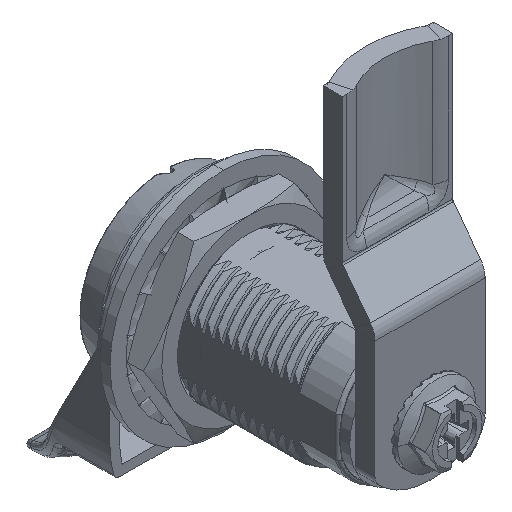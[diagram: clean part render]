
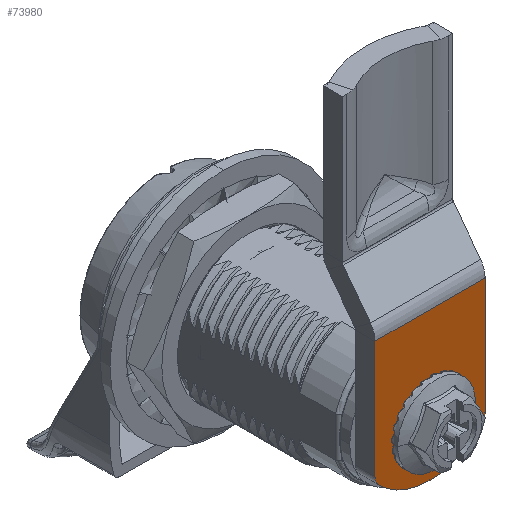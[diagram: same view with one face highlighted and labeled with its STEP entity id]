
A CAD part, isometric view. The second image highlights one B-rep face of the part: STEP entity #73980.
In plain terms, the highlighted planar face has unit normal (0, -1, 0) as drawn and (0, 1, 0) by its records, which use the part's own axes.
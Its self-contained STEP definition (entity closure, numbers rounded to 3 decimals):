
#72764=DIRECTION('',(0.,0.,-1.));
#72765=VECTOR('',#72764,17.);
#72766=CARTESIAN_POINT('',(14.834,3.,8.5));
#72767=LINE('',#72766,#72765);
#72843=CARTESIAN_POINT('',(-3.225,3.,6.5));
#72844=DIRECTION('',(0.,1.,0.));
#72845=DIRECTION('',(-0.692,0.,0.722));
#72846=AXIS2_PLACEMENT_3D('',#72843,#72844,#72845);
#72848=CARTESIAN_POINT('',(3.,3.,0.));
#72849=DIRECTION('',(0.,-1.,0.));
#72850=DIRECTION('',(-0.692,0.,0.722));
#72851=AXIS2_PLACEMENT_3D('',#72848,#72849,#72850);
#72853=CARTESIAN_POINT('',(3.,3.,0.));
#72854=DIRECTION('',(0.,-1.,0.));
#72855=DIRECTION('',(-1.,0.,0.));
#72856=AXIS2_PLACEMENT_3D('',#72853,#72854,#72855);
#72858=CARTESIAN_POINT('',(-3.225,3.,-6.5));
#72859=DIRECTION('',(0.,1.,0.));
#72860=DIRECTION('',(0.,0.,-1.));
#72861=AXIS2_PLACEMENT_3D('',#72858,#72859,#72860);
#72863=DIRECTION('',(1.,0.,0.));
#72864=VECTOR('',#72863,18.059);
#72865=CARTESIAN_POINT('',(-3.225,3.,-8.5));
#72866=LINE('',#72865,#72864);
#72867=DIRECTION('',(1.,0.,0.));
#72868=VECTOR('',#72867,18.059);
#72869=CARTESIAN_POINT('',(-3.225,3.,8.5));
#72870=LINE('',#72869,#72868);
#72871=DIRECTION('',(1.,0.,0.));
#72872=VECTOR('',#72871,4.);
#72873=CARTESIAN_POINT('',(-4.,3.,-4.));
#72874=LINE('',#72873,#72872);
#72875=DIRECTION('',(0.,0.,-1.));
#72876=VECTOR('',#72875,8.);
#72877=CARTESIAN_POINT('',(-4.,3.,4.));
#72878=LINE('',#72877,#72876);
#72879=DIRECTION('',(-1.,0.,0.));
#72880=VECTOR('',#72879,4.);
#72881=CARTESIAN_POINT('',(0.,3.,4.));
#72882=LINE('',#72881,#72880);
#72883=DIRECTION('',(-1.,0.,0.));
#72884=VECTOR('',#72883,4.);
#72885=CARTESIAN_POINT('',(4.,3.,4.));
#72886=LINE('',#72885,#72884);
#72887=DIRECTION('',(0.,0.,1.));
#72888=VECTOR('',#72887,8.);
#72889=CARTESIAN_POINT('',(4.,3.,-4.));
#72890=LINE('',#72889,#72888);
#72891=DIRECTION('',(1.,0.,0.));
#72892=VECTOR('',#72891,4.);
#72893=CARTESIAN_POINT('',(0.,3.,-4.));
#72894=LINE('',#72893,#72892);
#73104=CARTESIAN_POINT('',(14.834,3.,8.5));
#73105=VERTEX_POINT('',#73104);
#73106=CARTESIAN_POINT('',(14.834,3.,-8.5));
#73107=VERTEX_POINT('',#73106);
#73152=CARTESIAN_POINT('',(-8.,3.,0.));
#73154=VERTEX_POINT('',#73152);
#73156=CARTESIAN_POINT('',(-4.608,3.,7.944));
#73157=CARTESIAN_POINT('',(-3.225,3.,8.5));
#73158=VERTEX_POINT('',#73156);
#73159=VERTEX_POINT('',#73157);
#73164=CARTESIAN_POINT('',(-3.225,3.,-8.5));
#73165=CARTESIAN_POINT('',(-4.608,3.,-7.944));
#73166=VERTEX_POINT('',#73164);
#73167=VERTEX_POINT('',#73165);
#73210=CARTESIAN_POINT('',(-4.,3.,-4.));
#73211=CARTESIAN_POINT('',(0.,3.,-4.));
#73212=VERTEX_POINT('',#73210);
#73213=VERTEX_POINT('',#73211);
#73214=CARTESIAN_POINT('',(4.,3.,-4.));
#73215=VERTEX_POINT('',#73214);
#73216=CARTESIAN_POINT('',(4.,3.,4.));
#73217=VERTEX_POINT('',#73216);
#73218=CARTESIAN_POINT('',(0.,3.,4.));
#73219=VERTEX_POINT('',#73218);
#73220=CARTESIAN_POINT('',(-4.,3.,4.));
#73221=VERTEX_POINT('',#73220);
#73947=CARTESIAN_POINT('',(-8.,3.,15.));
#73948=DIRECTION('',(0.,-1.,0.));
#73949=DIRECTION('',(1.,0.,0.));
#73950=AXIS2_PLACEMENT_3D('',#73947,#73948,#73949);
#73951=PLANE('',#73950);
#73952=ORIENTED_EDGE('',*,*,#73937,.F.);
#73954=ORIENTED_EDGE('',*,*,#73953,.T.);
#73956=ORIENTED_EDGE('',*,*,#73955,.T.);
#73958=ORIENTED_EDGE('',*,*,#73957,.F.);
#73960=ORIENTED_EDGE('',*,*,#73959,.T.);
#73961=ORIENTED_EDGE('',*,*,#73863,.F.);
#73963=ORIENTED_EDGE('',*,*,#73962,.F.);
#73964=EDGE_LOOP('',(#73952,#73954,#73956,#73958,#73960,#73961,#73963));
#73965=FACE_OUTER_BOUND('',#73964,.F.);
#73967=ORIENTED_EDGE('',*,*,#73966,.F.);
#73969=ORIENTED_EDGE('',*,*,#73968,.F.);
#73971=ORIENTED_EDGE('',*,*,#73970,.F.);
#73973=ORIENTED_EDGE('',*,*,#73972,.F.);
#73975=ORIENTED_EDGE('',*,*,#73974,.F.);
#73977=ORIENTED_EDGE('',*,*,#73976,.F.);
#73978=EDGE_LOOP('',(#73967,#73969,#73971,#73973,#73975,#73977));
#73979=FACE_BOUND('',#73978,.F.);
#73980=ADVANCED_FACE('',(#73965,#73979),#73951,.F.);
#72847=CIRCLE('',#72846,2.);
#72852=CIRCLE('',#72851,11.);
#72857=CIRCLE('',#72856,11.);
#72862=CIRCLE('',#72861,2.);
#73863=EDGE_CURVE('',#73105,#73107,#72767,.T.);
#73937=EDGE_CURVE('',#73158,#73159,#72847,.T.);
#73953=EDGE_CURVE('',#73158,#73154,#72852,.T.);
#73955=EDGE_CURVE('',#73154,#73167,#72857,.T.);
#73957=EDGE_CURVE('',#73166,#73167,#72862,.T.);
#73959=EDGE_CURVE('',#73166,#73107,#72866,.T.);
#73962=EDGE_CURVE('',#73159,#73105,#72870,.T.);
#73966=EDGE_CURVE('',#73212,#73213,#72874,.T.);
#73968=EDGE_CURVE('',#73221,#73212,#72878,.T.);
#73970=EDGE_CURVE('',#73219,#73221,#72882,.T.);
#73972=EDGE_CURVE('',#73217,#73219,#72886,.T.);
#73974=EDGE_CURVE('',#73215,#73217,#72890,.T.);
#73976=EDGE_CURVE('',#73213,#73215,#72894,.T.);
